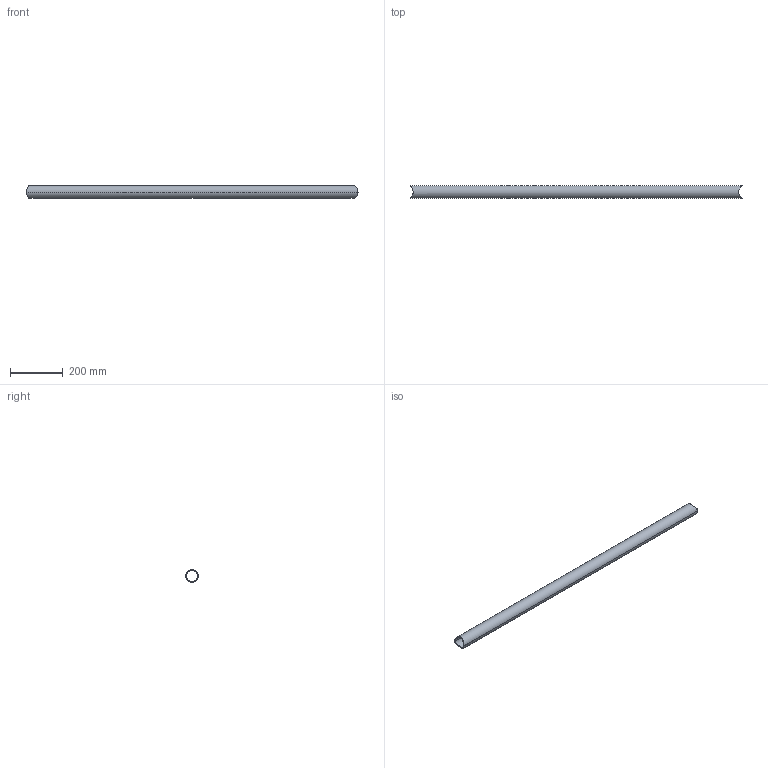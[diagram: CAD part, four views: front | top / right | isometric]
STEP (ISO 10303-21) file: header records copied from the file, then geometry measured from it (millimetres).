
FILE_DESCRIPTION (( 'STEP AP214' ), '1' );
FILE_NAME ('CCJ029-232 - LISSE PORTILLON A1-A2.STEP', '2024-01-10T15:20:45', ( '' ), ( '' ), 'SwSTEP 2.0', 'SolidWorks 2021', '' );
FILE_SCHEMA (( 'AUTOMOTIVE_DESIGN' ));
Length unit declared in the file: millimetre
Products named in the file (1): CCJ029-232 - LISSE PORTILLON A1-A2
Bounding box: 1263.9 x 48.3 x 48.3 mm (x, y, z)
Volume: 449158.3 mm3; surface area: 360385.9 mm2
Topology: 1 solids, 1 shells, 11 faces, 30 edges, 20 vertices
Faces by surface type: cylinder 11
Entity records: 1146 total; most frequent: CARTESIAN_POINT 858, ORIENTED_EDGE 60, DIRECTION 34, EDGE_CURVE 30, B_SPLINE_CURVE_WITH_KNOTS 20, VERTEX_POINT 20, EDGE_LOOP 16, AXIS2_PLACEMENT_3D 12
